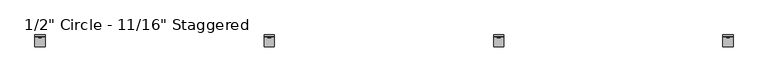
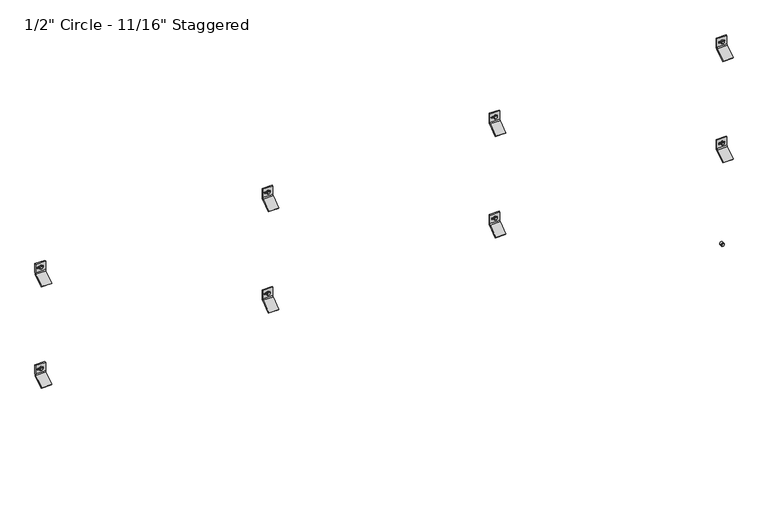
"""IFC4 building model written with IfcOpenShell, lengths in millimetres: plate geometry."""

from ifc_helpers import new_model, si_unit, point, frame, frame_2d, origin, place, context, project, spatial, polyline, circle_curve, trimmed, segment, composite_curve, outline, extrude, source, transform, mapped, element, save
from ifc_brep_helpers import plane_surface, cylinder_surface, revolved_surface, advanced_brep


def plate_5a68a687(model_context):
    return source(origin(), model_context, "Body", "SolidModel", [
        extrude(outline(polyline([(1395.4295323, 1293.5570034), (1391.0838197, 1296.0660017), (1391.0838197, 1301.0839983), (1395.4295323, 1303.5929966), (1399.7752448, 1301.0839983), (1399.7752448, 1296.0660017), (1395.4295323, 1293.5570034)])), frame((0.0, -58.7607779, 0.0), z_axis=(0.0, 1.0, 0.0), x_axis=(0.0, 0.0, 1.0)), (0.0, 0.0, 1.0), 11.1357779),
        extrude(outline(composite_curve([segment(trimmed(circle_curve(frame_2d((1395.5228392, 1298.575)), 6.35), [point((1395.5228392, 1304.925))], [point((1395.5228392, 1292.225))], False, "CARTESIAN"), True, "CONTINUOUS"), segment(trimmed(circle_curve(frame_2d((1395.5228392, 1298.575)), 6.35), [point((1395.5228392, 1292.225))], [point((1395.5228392, 1304.925))], False, "CARTESIAN"), True, "CONTINUOUS")], self_intersect=False)), frame((0.0, -57.0817743, 0.0), z_axis=(0.0, 1.0, 0.0), x_axis=(0.0, 0.0, 1.0)), (0.0, 0.0, 1.0), 9.4567743),
        advanced_brep(
        [(1279.525, -47.625, 1378.2802202), (1279.525, -51.2819443, 1370.6181877), (1279.525, -89.5163624, 1343.84616), (1279.525, -92.9330442, 1347.2628418), (1279.525, -54.3526876, 1374.2770983), (1279.525, -52.4002, 1378.2802911), (1279.525, -52.4002, 1412.4729053), (1279.525, -47.625, 1412.4729053), (1317.625, -47.625, 1378.2802202), (1317.625, -47.625, 1412.4729053), (1317.625, -52.4002, 1412.4729053), (1317.625, -52.4002, 1378.2802911), (1317.625, -54.3526876, 1374.2770983), (1317.625, -92.9330442, 1347.2628418), (1317.625, -89.5163624, 1343.84616), (1317.625, -51.2819443, 1370.6181877), (1305.3161889, -52.4002, 1398.4276891), (1305.3161889, -52.4002, 1392.0776891), (1289.0883287, -52.4002, 1392.0776891), (1289.0883287, -52.4002, 1398.4276891), (1305.3161889, -47.625, 1392.0776891), (1305.3161889, -47.625, 1398.4276891), (1289.0883287, -47.625, 1398.4276891), (1289.0883287, -47.625, 1392.0776891)],
        [
            (0, 1, circle_curve(frame((1279.525, -57.4802202, 1378.2802202), z_axis=(-1.0, 0.0, 0.0), x_axis=(0.0, -1.0, 0.0)), 9.8552202)),
            (1, 2),
            (2, 3),
            (3, 4),
            (4, 5, circle_curve(frame((1279.525, -57.4803246, 1378.2802911), z_axis=(1.0, 0.0, 0.0), x_axis=(0.0, -1.0, 0.0)), 5.0801246)),
            (5, 6),
            (6, 7),
            (7, 0),
            (8, 9),
            (9, 10),
            (10, 11),
            (11, 12, circle_curve(frame((1317.625, -57.4803246, 1378.2802911), z_axis=(-1.0, 0.0, 0.0), x_axis=(0.0, -1.0, 0.0)), 5.0801246)),
            (12, 13),
            (13, 14),
            (14, 15),
            (15, 8, circle_curve(frame((1317.625, -57.4802202, 1378.2802202), z_axis=(1.0, 0.0, 0.0), x_axis=(0.0, -1.0, 0.0)), 9.8552202)),
            (4, 12),
            (11, 5),
            (10, 6),
            (16, 17, circle_curve(frame((1305.3161889, -52.4002, 1395.2526891), z_axis=(0.0, 1.0, 0.0), x_axis=(0.0, 0.0, -1.0)), 3.175)),
            (17, 18),
            (18, 19, circle_curve(frame((1289.0883287, -52.4002, 1395.2526891), z_axis=(0.0, 1.0, 0.0), x_axis=(0.0, 0.0, -1.0)), 3.175)),
            (19, 16),
            (9, 7),
            (8, 0),
            (20, 21, circle_curve(frame((1305.3161889, -47.625, 1395.2526891), z_axis=(0.0, -1.0, 0.0), x_axis=(0.0, 0.0, -1.0)), 3.175)),
            (21, 22),
            (22, 23, circle_curve(frame((1289.0883287, -47.625, 1395.2526891), z_axis=(0.0, -1.0, 0.0), x_axis=(0.0, 0.0, -1.0)), 3.175)),
            (23, 20),
            (15, 1),
            (20, 17),
            (16, 21),
            (19, 22),
            (18, 23),
            (14, 2),
            (13, 3),
        ],
        [
            plane_surface(frame((1279.525, -67.3354404, 1378.2802202), z_axis=(-1.0, 0.0, 0.0), x_axis=(0.0, 0.0, 1.0))),
            plane_surface(frame((1317.625, -67.3354404, 1378.2802202), z_axis=(1.0, 0.0, 0.0), x_axis=(0.0, 0.0, -1.0))),
            revolved_surface(polyline([(1317.625, -62.5604492, 1378.2802911), (1279.525, -62.5604492, 1378.2802911)]), (1317.625, -57.4803246, 1378.2802911), (1.0, 0.0, 0.0)),
            plane_surface(frame((1279.525, -52.4002, 1378.2802911), z_axis=(0.0, -1.0, 0.0), x_axis=(1.0, 0.0, 0.0))),
            plane_surface(frame((1279.525, -52.4002, 1412.4729053), z_axis=(0.0, 0.0, 1.0), x_axis=(1.0, 0.0, 0.0))),
            plane_surface(frame((1279.525, -47.625, 1412.4729053), z_axis=(0.0, 1.0, 6.99569853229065e-12), x_axis=(1.0, 0.0, 0.0))),
            cylinder_surface(frame((1317.625, -57.4802202, 1378.2802202), z_axis=(-1.0, 0.0, 0.0), x_axis=(0.0, -1.0, 0.0)), 9.8552202),
            revolved_surface(polyline([(1305.3161889, -52.4002, 1392.0776891), (1305.3161889, -47.625, 1392.0776891)]), (1305.3161889, -25.6669948, 1395.2526891), (0.0, -1.0, 0.0)),
            plane_surface(frame((1305.3161889, -86.677982, 1398.4276891), z_axis=(0.0, 0.0, -1.0), x_axis=(0.0, 1.0, 0.0))),
            revolved_surface(polyline([(1289.0883287, -52.4002, 1392.0776891), (1289.0883287, -47.625, 1392.0776891)]), (1289.0883287, -25.6669948, 1395.2526891), (0.0, -1.0, 0.0)),
            plane_surface(frame((1289.0883287, -86.677982, 1392.0776891), z_axis=(-2.7237720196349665e-11, 0.0, 1.0), x_axis=(0.0, 1.0, 0.0))),
            plane_surface(frame((1279.525, -51.2819443, 1370.6181877), z_axis=(0.0, 0.5735764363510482, -0.8191520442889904), x_axis=(1.0, 0.0, 0.0))),
            plane_surface(frame((1279.525, -89.5163624, 1343.84616), z_axis=(0.0, -0.7071067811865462, -0.7071067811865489), x_axis=(1.0, 0.0, 0.0))),
            plane_surface(frame((1279.525, -92.9330442, 1347.2628418), z_axis=(0.0, -0.5735764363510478, 0.8191520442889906), x_axis=(1.0, 0.0, 0.0))),
        ],
        [
            (0, [[1, 2, 3, 4, 5, 6, 7, 8]]),
            (1, [[9, 10, 11, 12, 13, 14, 15, 16]]),
            (2, [[-5, 17, -12, 18]]),
            (3, [[-6, -18, -11, 19], [20, 21, 22, 23]]),
            (4, [[-7, -19, -10, 24]]),
            (5, [[-8, -24, -9, 25], [26, 27, 28, 29]]),
            (6, [[-1, -25, -16, 30]]),
            (7, [[31, -20, 32, -26]]),
            (8, [[-32, -23, 33, -27]]),
            (9, [[-33, -22, 34, -28]]),
            (10, [[-31, -29, -34, -21]]),
            (11, [[-2, -30, -15, 35]]),
            (12, [[-3, -35, -14, 36]]),
            (13, [[-4, -36, -13, -17]]),
        ],
    ),
        extrude(outline(polyline([(1395.4295323, 427.8403368), (1391.0838197, 430.349335), (1391.0838197, 435.3673316), (1395.4295323, 437.8763299), (1399.7752448, 435.3673316), (1399.7752448, 430.349335), (1395.4295323, 427.8403368)])), frame((0.0, -58.7607779, 0.0), z_axis=(0.0, 1.0, 0.0), x_axis=(0.0, 0.0, 1.0)), (0.0, 0.0, 1.0), 11.1357779),
        extrude(outline(composite_curve([segment(trimmed(circle_curve(frame_2d((1395.5228392, 432.8583333)), 6.35), [point((1395.5228392, 439.2083333))], [point((1395.5228392, 426.5083333))], False, "CARTESIAN"), True, "CONTINUOUS"), segment(trimmed(circle_curve(frame_2d((1395.5228392, 432.8583333)), 6.35), [point((1395.5228392, 426.5083333))], [point((1395.5228392, 439.2083333))], False, "CARTESIAN"), True, "CONTINUOUS")], self_intersect=False)), frame((0.0, -57.0817743, 0.0), z_axis=(0.0, 1.0, 0.0), x_axis=(0.0, 0.0, 1.0)), (0.0, 0.0, 1.0), 9.4567743),
        advanced_brep(
        [(413.8083333, -47.625, 1378.2802202), (413.8083333, -51.2819443, 1370.6181877), (413.8083333, -89.5163624, 1343.84616), (413.8083333, -92.9330442, 1347.2628418), (413.8083333, -54.3526876, 1374.2770983), (413.8083333, -52.4002, 1378.2802911), (413.8083333, -52.4002, 1412.4729053), (413.8083333, -47.625, 1412.4729053), (451.9083333, -47.625, 1378.2802202), (451.9083333, -47.625, 1412.4729053), (451.9083333, -52.4002, 1412.4729053), (451.9083333, -52.4002, 1378.2802911), (451.9083333, -54.3526876, 1374.2770983), (451.9083333, -92.9330442, 1347.2628418), (451.9083333, -89.5163624, 1343.84616), (451.9083333, -51.2819443, 1370.6181877), (439.5995222, -52.4002, 1398.4276891), (439.5995222, -52.4002, 1392.0776891), (423.371662, -52.4002, 1392.0776891), (423.371662, -52.4002, 1398.4276891), (439.5995222, -47.625, 1392.0776891), (439.5995222, -47.625, 1398.4276891), (423.371662, -47.625, 1398.4276891), (423.371662, -47.625, 1392.0776891)],
        [
            (0, 1, circle_curve(frame((413.8083333, -57.4802202, 1378.2802202), z_axis=(-1.0, 0.0, 0.0), x_axis=(0.0, -1.0, 0.0)), 9.8552202)),
            (1, 2),
            (2, 3),
            (3, 4),
            (4, 5, circle_curve(frame((413.8083333, -57.4803246, 1378.2802911), z_axis=(1.0, 0.0, 0.0), x_axis=(0.0, -1.0, 0.0)), 5.0801246)),
            (5, 6),
            (6, 7),
            (7, 0),
            (8, 9),
            (9, 10),
            (10, 11),
            (11, 12, circle_curve(frame((451.9083333, -57.4803246, 1378.2802911), z_axis=(-1.0, 0.0, 0.0), x_axis=(0.0, -1.0, 0.0)), 5.0801246)),
            (12, 13),
            (13, 14),
            (14, 15),
            (15, 8, circle_curve(frame((451.9083333, -57.4802202, 1378.2802202), z_axis=(1.0, 0.0, 0.0), x_axis=(0.0, -1.0, 0.0)), 9.8552202)),
            (4, 12),
            (11, 5),
            (10, 6),
            (16, 17, circle_curve(frame((439.5995222, -52.4002, 1395.2526891), z_axis=(0.0, 1.0, 0.0), x_axis=(0.0, 0.0, -1.0)), 3.175)),
            (17, 18),
            (18, 19, circle_curve(frame((423.371662, -52.4002, 1395.2526891), z_axis=(0.0, 1.0, 0.0), x_axis=(0.0, 0.0, -1.0)), 3.175)),
            (19, 16),
            (9, 7),
            (8, 0),
            (20, 21, circle_curve(frame((439.5995222, -47.625, 1395.2526891), z_axis=(0.0, -1.0, 0.0), x_axis=(0.0, 0.0, -1.0)), 3.175)),
            (21, 22),
            (22, 23, circle_curve(frame((423.371662, -47.625, 1395.2526891), z_axis=(0.0, -1.0, 0.0), x_axis=(0.0, 0.0, -1.0)), 3.175)),
            (23, 20),
            (15, 1),
            (20, 17),
            (16, 21),
            (19, 22),
            (18, 23),
            (14, 2),
            (13, 3),
        ],
        [
            plane_surface(frame((413.8083333, -67.3354404, 1378.2802202), z_axis=(-1.0, 0.0, 0.0), x_axis=(0.0, 0.0, 1.0))),
            plane_surface(frame((451.9083333, -67.3354404, 1378.2802202), z_axis=(1.0, 0.0, 0.0), x_axis=(0.0, 0.0, -1.0))),
            revolved_surface(polyline([(451.9083333, -62.5604492, 1378.2802911), (413.8083333, -62.5604492, 1378.2802911)]), (451.9083333, -57.4803246, 1378.2802911), (1.0, 0.0, 0.0)),
            plane_surface(frame((413.8083333, -52.4002, 1378.2802911), z_axis=(0.0, -1.0, 0.0), x_axis=(1.0, 0.0, 0.0))),
            plane_surface(frame((413.8083333, -52.4002, 1412.4729053), z_axis=(0.0, 0.0, 1.0), x_axis=(1.0, 0.0, 0.0))),
            plane_surface(frame((413.8083333, -47.625, 1412.4729053), z_axis=(0.0, 1.0, 6.99569853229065e-12), x_axis=(1.0, 0.0, 0.0))),
            cylinder_surface(frame((451.9083333, -57.4802202, 1378.2802202), z_axis=(-1.0, 0.0, 0.0), x_axis=(0.0, -1.0, 0.0)), 9.8552202),
            revolved_surface(polyline([(439.5995222, -52.4002, 1392.0776891), (439.5995222, -47.625, 1392.0776891)]), (439.5995222, -25.6669948, 1395.2526891), (0.0, -1.0, 0.0)),
            plane_surface(frame((439.5995222, -86.677982, 1398.4276891), z_axis=(0.0, 0.0, -1.0), x_axis=(0.0, 1.0, 0.0))),
            revolved_surface(polyline([(423.371662, -52.4002, 1392.0776891), (423.371662, -47.625, 1392.0776891)]), (423.371662, -25.6669948, 1395.2526891), (0.0, -1.0, 0.0)),
            plane_surface(frame((423.371662, -86.677982, 1392.0776891), z_axis=(-2.7237720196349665e-11, 0.0, 1.0), x_axis=(0.0, 1.0, 0.0))),
            plane_surface(frame((413.8083333, -51.2819443, 1370.6181877), z_axis=(0.0, 0.5735764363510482, -0.8191520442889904), x_axis=(1.0, 0.0, 0.0))),
            plane_surface(frame((413.8083333, -89.5163624, 1343.84616), z_axis=(0.0, -0.7071067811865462, -0.7071067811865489), x_axis=(1.0, 0.0, 0.0))),
            plane_surface(frame((413.8083333, -92.9330442, 1347.2628418), z_axis=(0.0, -0.5735764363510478, 0.8191520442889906), x_axis=(1.0, 0.0, 0.0))),
        ],
        [
            (0, [[1, 2, 3, 4, 5, 6, 7, 8]]),
            (1, [[9, 10, 11, 12, 13, 14, 15, 16]]),
            (2, [[-5, 17, -12, 18]]),
            (3, [[-6, -18, -11, 19], [20, 21, 22, 23]]),
            (4, [[-7, -19, -10, 24]]),
            (5, [[-8, -24, -9, 25], [26, 27, 28, 29]]),
            (6, [[-1, -25, -16, 30]]),
            (7, [[31, -20, 32, -26]]),
            (8, [[-32, -23, 33, -27]]),
            (9, [[-33, -22, 34, -28]]),
            (10, [[-31, -29, -34, -21]]),
            (11, [[-2, -30, -15, 35]]),
            (12, [[-3, -35, -14, 36]]),
            (13, [[-4, -36, -13, -17]]),
        ],
    ),
        extrude(outline(polyline([(1395.4295323, -437.8763299), (1391.0838197, -435.3673316), (1391.0838197, -430.349335), (1395.4295323, -427.8403368), (1399.7752448, -430.349335), (1399.7752448, -435.3673316), (1395.4295323, -437.8763299)])), frame((0.0, -58.7607779, 0.0), z_axis=(0.0, 1.0, 0.0), x_axis=(0.0, 0.0, 1.0)), (0.0, 0.0, 1.0), 11.1357779),
        extrude(outline(composite_curve([segment(trimmed(circle_curve(frame_2d((1395.5228392, -432.8583333)), 6.35), [point((1395.5228392, -426.5083333))], [point((1395.5228392, -439.2083333))], False, "CARTESIAN"), True, "CONTINUOUS"), segment(trimmed(circle_curve(frame_2d((1395.5228392, -432.8583333)), 6.35), [point((1395.5228392, -439.2083333))], [point((1395.5228392, -426.5083333))], False, "CARTESIAN"), True, "CONTINUOUS")], self_intersect=False)), frame((0.0, -57.0817743, 0.0), z_axis=(0.0, 1.0, 0.0), x_axis=(0.0, 0.0, 1.0)), (0.0, 0.0, 1.0), 9.4567743),
        advanced_brep(
        [(-451.9083333, -47.625, 1378.2802202), (-451.9083333, -51.2819443, 1370.6181877), (-451.9083333, -89.5163624, 1343.84616), (-451.9083333, -92.9330442, 1347.2628418), (-451.9083333, -54.3526876, 1374.2770983), (-451.9083333, -52.4002, 1378.2802911), (-451.9083333, -52.4002, 1412.4729053), (-451.9083333, -47.625, 1412.4729053), (-413.8083333, -47.625, 1378.2802202), (-413.8083333, -47.625, 1412.4729053), (-413.8083333, -52.4002, 1412.4729053), (-413.8083333, -52.4002, 1378.2802911), (-413.8083333, -54.3526876, 1374.2770983), (-413.8083333, -92.9330442, 1347.2628418), (-413.8083333, -89.5163624, 1343.84616), (-413.8083333, -51.2819443, 1370.6181877), (-426.1171444, -52.4002, 1398.4276891), (-426.1171444, -52.4002, 1392.0776891), (-442.3450046, -52.4002, 1392.0776891), (-442.3450046, -52.4002, 1398.4276891), (-426.1171444, -47.625, 1392.0776891), (-426.1171444, -47.625, 1398.4276891), (-442.3450046, -47.625, 1398.4276891), (-442.3450046, -47.625, 1392.0776891)],
        [
            (0, 1, circle_curve(frame((-451.9083333, -57.4802202, 1378.2802202), z_axis=(-1.0, 0.0, 0.0), x_axis=(0.0, -1.0, 0.0)), 9.8552202)),
            (1, 2),
            (2, 3),
            (3, 4),
            (4, 5, circle_curve(frame((-451.9083333, -57.4803246, 1378.2802911), z_axis=(1.0, 0.0, 0.0), x_axis=(0.0, -1.0, 0.0)), 5.0801246)),
            (5, 6),
            (6, 7),
            (7, 0),
            (8, 9),
            (9, 10),
            (10, 11),
            (11, 12, circle_curve(frame((-413.8083333, -57.4803246, 1378.2802911), z_axis=(-1.0, 0.0, 0.0), x_axis=(0.0, -1.0, 0.0)), 5.0801246)),
            (12, 13),
            (13, 14),
            (14, 15),
            (15, 8, circle_curve(frame((-413.8083333, -57.4802202, 1378.2802202), z_axis=(1.0, 0.0, 0.0), x_axis=(0.0, -1.0, 0.0)), 9.8552202)),
            (4, 12),
            (11, 5),
            (10, 6),
            (16, 17, circle_curve(frame((-426.1171444, -52.4002, 1395.2526891), z_axis=(0.0, 1.0, 0.0), x_axis=(0.0, 0.0, -1.0)), 3.175)),
            (17, 18),
            (18, 19, circle_curve(frame((-442.3450046, -52.4002, 1395.2526891), z_axis=(0.0, 1.0, 0.0), x_axis=(0.0, 0.0, -1.0)), 3.175)),
            (19, 16),
            (9, 7),
            (8, 0),
            (20, 21, circle_curve(frame((-426.1171444, -47.625, 1395.2526891), z_axis=(0.0, -1.0, 0.0), x_axis=(0.0, 0.0, -1.0)), 3.175)),
            (21, 22),
            (22, 23, circle_curve(frame((-442.3450046, -47.625, 1395.2526891), z_axis=(0.0, -1.0, 0.0), x_axis=(0.0, 0.0, -1.0)), 3.175)),
            (23, 20),
            (15, 1),
            (20, 17),
            (16, 21),
            (19, 22),
            (18, 23),
            (14, 2),
            (13, 3),
        ],
        [
            plane_surface(frame((-451.9083333, -67.3354404, 1378.2802202), z_axis=(-1.0, 0.0, 0.0), x_axis=(0.0, 0.0, 1.0))),
            plane_surface(frame((-413.8083333, -67.3354404, 1378.2802202), z_axis=(1.0, 0.0, 0.0), x_axis=(0.0, 0.0, -1.0))),
            revolved_surface(polyline([(-413.8083333, -62.5604492, 1378.2802911), (-451.9083333, -62.5604492, 1378.2802911)]), (-413.8083333, -57.4803246, 1378.2802911), (1.0, 0.0, 0.0)),
            plane_surface(frame((-451.9083333, -52.4002, 1378.2802911), z_axis=(0.0, -1.0, 0.0), x_axis=(1.0, 0.0, 0.0))),
            plane_surface(frame((-451.9083333, -52.4002, 1412.4729053), z_axis=(0.0, 0.0, 1.0), x_axis=(1.0, 0.0, 0.0))),
            plane_surface(frame((-451.9083333, -47.625, 1412.4729053), z_axis=(0.0, 1.0, 6.99569853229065e-12), x_axis=(1.0, 0.0, 0.0))),
            cylinder_surface(frame((-413.8083333, -57.4802202, 1378.2802202), z_axis=(-1.0, 0.0, 0.0), x_axis=(0.0, -1.0, 0.0)), 9.8552202),
            revolved_surface(polyline([(-426.1171444, -52.4002, 1392.0776891), (-426.1171444, -47.625, 1392.0776891)]), (-426.1171444, -25.6669948, 1395.2526891), (0.0, -1.0, 0.0)),
            plane_surface(frame((-426.1171444, -86.677982, 1398.4276891), z_axis=(0.0, 0.0, -1.0), x_axis=(0.0, 1.0, 0.0))),
            revolved_surface(polyline([(-442.3450046, -52.4002, 1392.0776891), (-442.3450046, -47.625, 1392.0776891)]), (-442.3450046, -25.6669948, 1395.2526891), (0.0, -1.0, 0.0)),
            plane_surface(frame((-442.3450046, -86.677982, 1392.0776891), z_axis=(-2.7237720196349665e-11, 0.0, 1.0), x_axis=(0.0, 1.0, 0.0))),
            plane_surface(frame((-451.9083333, -51.2819443, 1370.6181877), z_axis=(0.0, 0.5735764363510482, -0.8191520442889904), x_axis=(1.0, 0.0, 0.0))),
            plane_surface(frame((-451.9083333, -89.5163624, 1343.84616), z_axis=(0.0, -0.7071067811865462, -0.7071067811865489), x_axis=(1.0, 0.0, 0.0))),
            plane_surface(frame((-451.9083333, -92.9330442, 1347.2628418), z_axis=(0.0, -0.5735764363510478, 0.8191520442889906), x_axis=(1.0, 0.0, 0.0))),
        ],
        [
            (0, [[1, 2, 3, 4, 5, 6, 7, 8]]),
            (1, [[9, 10, 11, 12, 13, 14, 15, 16]]),
            (2, [[-5, 17, -12, 18]]),
            (3, [[-6, -18, -11, 19], [20, 21, 22, 23]]),
            (4, [[-7, -19, -10, 24]]),
            (5, [[-8, -24, -9, 25], [26, 27, 28, 29]]),
            (6, [[-1, -25, -16, 30]]),
            (7, [[31, -20, 32, -26]]),
            (8, [[-32, -23, 33, -27]]),
            (9, [[-33, -22, 34, -28]]),
            (10, [[-31, -29, -34, -21]]),
            (11, [[-2, -30, -15, 35]]),
            (12, [[-3, -35, -14, 36]]),
            (13, [[-4, -36, -13, -17]]),
        ],
    ),
        extrude(outline(polyline([(1395.4295323, -1303.5929966), (1391.0838197, -1301.0839983), (1391.0838197, -1296.0660017), (1395.4295323, -1293.5570034), (1399.7752448, -1296.0660017), (1399.7752448, -1301.0839983), (1395.4295323, -1303.5929966)])), frame((0.0, -58.7607779, 0.0), z_axis=(0.0, 1.0, 0.0), x_axis=(0.0, 0.0, 1.0)), (0.0, 0.0, 1.0), 11.1357779),
        extrude(outline(composite_curve([segment(trimmed(circle_curve(frame_2d((1395.5228392, -1298.575)), 6.35), [point((1395.5228392, -1292.225))], [point((1395.5228392, -1304.925))], False, "CARTESIAN"), True, "CONTINUOUS"), segment(trimmed(circle_curve(frame_2d((1395.5228392, -1298.575)), 6.35), [point((1395.5228392, -1304.925))], [point((1395.5228392, -1292.225))], False, "CARTESIAN"), True, "CONTINUOUS")], self_intersect=False)), frame((0.0, -57.0817743, 0.0), z_axis=(0.0, 1.0, 0.0), x_axis=(0.0, 0.0, 1.0)), (0.0, 0.0, 1.0), 9.4567743),
        advanced_brep(
        [(-1317.625, -47.625, 1378.2802202), (-1317.625, -51.2819443, 1370.6181877), (-1317.625, -89.5163624, 1343.84616), (-1317.625, -92.9330442, 1347.2628418), (-1317.625, -54.3526876, 1374.2770983), (-1317.625, -52.4002, 1378.2802911), (-1317.625, -52.4002, 1412.4729053), (-1317.625, -47.625, 1412.4729053), (-1279.525, -47.625, 1378.2802202), (-1279.525, -47.625, 1412.4729053), (-1279.525, -52.4002, 1412.4729053), (-1279.525, -52.4002, 1378.2802911), (-1279.525, -54.3526876, 1374.2770983), (-1279.525, -92.9330442, 1347.2628418), (-1279.525, -89.5163624, 1343.84616), (-1279.525, -51.2819443, 1370.6181877), (-1291.8338111, -52.4002, 1398.4276891), (-1291.8338111, -52.4002, 1392.0776891), (-1308.0616713, -52.4002, 1392.0776891), (-1308.0616713, -52.4002, 1398.4276891), (-1291.8338111, -47.625, 1392.0776891), (-1291.8338111, -47.625, 1398.4276891), (-1308.0616713, -47.625, 1398.4276891), (-1308.0616713, -47.625, 1392.0776891)],
        [
            (0, 1, circle_curve(frame((-1317.625, -57.4802202, 1378.2802202), z_axis=(-1.0, 0.0, 0.0), x_axis=(0.0, -1.0, 0.0)), 9.8552202)),
            (1, 2),
            (2, 3),
            (3, 4),
            (4, 5, circle_curve(frame((-1317.625, -57.4803246, 1378.2802911), z_axis=(1.0, 0.0, 0.0), x_axis=(0.0, -1.0, 0.0)), 5.0801246)),
            (5, 6),
            (6, 7),
            (7, 0),
            (8, 9),
            (9, 10),
            (10, 11),
            (11, 12, circle_curve(frame((-1279.525, -57.4803246, 1378.2802911), z_axis=(-1.0, 0.0, 0.0), x_axis=(0.0, -1.0, 0.0)), 5.0801246)),
            (12, 13),
            (13, 14),
            (14, 15),
            (15, 8, circle_curve(frame((-1279.525, -57.4802202, 1378.2802202), z_axis=(1.0, 0.0, 0.0), x_axis=(0.0, -1.0, 0.0)), 9.8552202)),
            (4, 12),
            (11, 5),
            (10, 6),
            (16, 17, circle_curve(frame((-1291.8338111, -52.4002, 1395.2526891), z_axis=(0.0, 1.0, 0.0), x_axis=(0.0, 0.0, -1.0)), 3.175)),
            (17, 18),
            (18, 19, circle_curve(frame((-1308.0616713, -52.4002, 1395.2526891), z_axis=(0.0, 1.0, 0.0), x_axis=(0.0, 0.0, -1.0)), 3.175)),
            (19, 16),
            (9, 7),
            (8, 0),
            (20, 21, circle_curve(frame((-1291.8338111, -47.625, 1395.2526891), z_axis=(0.0, -1.0, 0.0), x_axis=(0.0, 0.0, -1.0)), 3.175)),
            (21, 22),
            (22, 23, circle_curve(frame((-1308.0616713, -47.625, 1395.2526891), z_axis=(0.0, -1.0, 0.0), x_axis=(0.0, 0.0, -1.0)), 3.175)),
            (23, 20),
            (15, 1),
            (20, 17),
            (16, 21),
            (19, 22),
            (18, 23),
            (14, 2),
            (13, 3),
        ],
        [
            plane_surface(frame((-1317.625, -67.3354404, 1378.2802202), z_axis=(-1.0, 0.0, 0.0), x_axis=(0.0, 0.0, 1.0))),
            plane_surface(frame((-1279.525, -67.3354404, 1378.2802202), z_axis=(1.0, 0.0, 0.0), x_axis=(0.0, 0.0, -1.0))),
            revolved_surface(polyline([(-1279.525, -62.5604492, 1378.2802911), (-1317.625, -62.5604492, 1378.2802911)]), (-1279.525, -57.4803246, 1378.2802911), (1.0, 0.0, 0.0)),
            plane_surface(frame((-1317.625, -52.4002, 1378.2802911), z_axis=(0.0, -1.0, 0.0), x_axis=(1.0, 0.0, 0.0))),
            plane_surface(frame((-1317.625, -52.4002, 1412.4729053), z_axis=(0.0, 0.0, 1.0), x_axis=(1.0, 0.0, 0.0))),
            plane_surface(frame((-1317.625, -47.625, 1412.4729053), z_axis=(0.0, 1.0, 6.99569853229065e-12), x_axis=(1.0, 0.0, 0.0))),
            cylinder_surface(frame((-1279.525, -57.4802202, 1378.2802202), z_axis=(-1.0, 0.0, 0.0), x_axis=(0.0, -1.0, 0.0)), 9.8552202),
            revolved_surface(polyline([(-1291.8338111, -52.4002, 1392.0776891), (-1291.8338111, -47.625, 1392.0776891)]), (-1291.8338111, -25.6669948, 1395.2526891), (0.0, -1.0, 0.0)),
            plane_surface(frame((-1291.8338111, -86.677982, 1398.4276891), z_axis=(0.0, 0.0, -1.0), x_axis=(0.0, 1.0, 0.0))),
            revolved_surface(polyline([(-1308.0616713, -52.4002, 1392.0776891), (-1308.0616713, -47.625, 1392.0776891)]), (-1308.0616713, -25.6669948, 1395.2526891), (0.0, -1.0, 0.0)),
            plane_surface(frame((-1308.0616713, -86.677982, 1392.0776891), z_axis=(-2.7237720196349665e-11, 0.0, 1.0), x_axis=(0.0, 1.0, 0.0))),
            plane_surface(frame((-1317.625, -51.2819443, 1370.6181877), z_axis=(0.0, 0.5735764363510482, -0.8191520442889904), x_axis=(1.0, 0.0, 0.0))),
            plane_surface(frame((-1317.625, -89.5163624, 1343.84616), z_axis=(0.0, -0.7071067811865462, -0.7071067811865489), x_axis=(1.0, 0.0, 0.0))),
            plane_surface(frame((-1317.625, -92.9330442, 1347.2628418), z_axis=(0.0, -0.5735764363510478, 0.8191520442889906), x_axis=(1.0, 0.0, 0.0))),
        ],
        [
            (0, [[1, 2, 3, 4, 5, 6, 7, 8]]),
            (1, [[9, 10, 11, 12, 13, 14, 15, 16]]),
            (2, [[-5, 17, -12, 18]]),
            (3, [[-6, -18, -11, 19], [20, 21, 22, 23]]),
            (4, [[-7, -19, -10, 24]]),
            (5, [[-8, -24, -9, 25], [26, 27, 28, 29]]),
            (6, [[-1, -25, -16, 30]]),
            (7, [[31, -20, 32, -26]]),
            (8, [[-32, -23, 33, -27]]),
            (9, [[-33, -22, 34, -28]]),
            (10, [[-31, -29, -34, -21]]),
            (11, [[-2, -30, -15, 35]]),
            (12, [[-3, -35, -14, 36]]),
            (13, [[-4, -36, -13, -17]]),
        ],
    ),
        extrude(outline(polyline([(986.9128656, 1293.5570034), (982.5671531, 1296.0660017), (982.5671531, 1301.0839983), (986.9128656, 1303.5929966), (991.2585781, 1301.0839983), (991.2585781, 1296.0660017), (986.9128656, 1293.5570034)])), frame((0.0, -58.7607779, 0.0), z_axis=(0.0, 1.0, 0.0), x_axis=(0.0, 0.0, 1.0)), (0.0, 0.0, 1.0), 11.1357779),
        extrude(outline(composite_curve([segment(trimmed(circle_curve(frame_2d((987.0061726, 1298.575)), 6.35), [point((987.0061726, 1304.925))], [point((987.0061726, 1292.225))], False, "CARTESIAN"), True, "CONTINUOUS"), segment(trimmed(circle_curve(frame_2d((987.0061726, 1298.575)), 6.35), [point((987.0061726, 1292.225))], [point((987.0061726, 1304.925))], False, "CARTESIAN"), True, "CONTINUOUS")], self_intersect=False)), frame((0.0, -57.0817743, 0.0), z_axis=(0.0, 1.0, 0.0), x_axis=(0.0, 0.0, 1.0)), (0.0, 0.0, 1.0), 9.4567743),
        advanced_brep(
        [(1279.525, -47.625, 969.7635535), (1279.525, -51.2819443, 962.1015211), (1279.525, -89.5163624, 935.3294933), (1279.525, -92.9330442, 938.7461751), (1279.525, -54.3526876, 965.7604316), (1279.525, -52.4002, 969.7636244), (1279.525, -52.4002, 1003.9562386), (1279.525, -47.625, 1003.9562386), (1317.625, -47.625, 969.7635535), (1317.625, -47.625, 1003.9562386), (1317.625, -52.4002, 1003.9562386), (1317.625, -52.4002, 969.7636244), (1317.625, -54.3526876, 965.7604316), (1317.625, -92.9330442, 938.7461751), (1317.625, -89.5163624, 935.3294933), (1317.625, -51.2819443, 962.1015211), (1305.3161889, -52.4002, 989.9110224), (1305.3161889, -52.4002, 983.5610224), (1289.0883287, -52.4002, 983.5610224), (1289.0883287, -52.4002, 989.9110224), (1305.3161889, -47.625, 983.5610224), (1305.3161889, -47.625, 989.9110224), (1289.0883287, -47.625, 989.9110224), (1289.0883287, -47.625, 983.5610224)],
        [
            (0, 1, circle_curve(frame((1279.525, -57.4802202, 969.7635535), z_axis=(-1.0, 0.0, 0.0), x_axis=(0.0, -1.0, 0.0)), 9.8552202)),
            (1, 2),
            (2, 3),
            (3, 4),
            (4, 5, circle_curve(frame((1279.525, -57.4803246, 969.7636244), z_axis=(1.0, 0.0, 0.0), x_axis=(0.0, -1.0, 0.0)), 5.0801246)),
            (5, 6),
            (6, 7),
            (7, 0),
            (8, 9),
            (9, 10),
            (10, 11),
            (11, 12, circle_curve(frame((1317.625, -57.4803246, 969.7636244), z_axis=(-1.0, 0.0, 0.0), x_axis=(0.0, -1.0, 0.0)), 5.0801246)),
            (12, 13),
            (13, 14),
            (14, 15),
            (15, 8, circle_curve(frame((1317.625, -57.4802202, 969.7635535), z_axis=(1.0, 0.0, 0.0), x_axis=(0.0, -1.0, 0.0)), 9.8552202)),
            (4, 12),
            (11, 5),
            (10, 6),
            (16, 17, circle_curve(frame((1305.3161889, -52.4002, 986.7360224), z_axis=(0.0, 1.0, 0.0), x_axis=(0.0, 0.0, -1.0)), 3.175)),
            (17, 18),
            (18, 19, circle_curve(frame((1289.0883287, -52.4002, 986.7360224), z_axis=(0.0, 1.0, 0.0), x_axis=(0.0, 0.0, -1.0)), 3.175)),
            (19, 16),
            (9, 7),
            (8, 0),
            (20, 21, circle_curve(frame((1305.3161889, -47.625, 986.7360224), z_axis=(0.0, -1.0, 0.0), x_axis=(0.0, 0.0, -1.0)), 3.175)),
            (21, 22),
            (22, 23, circle_curve(frame((1289.0883287, -47.625, 986.7360224), z_axis=(0.0, -1.0, 0.0), x_axis=(0.0, 0.0, -1.0)), 3.175)),
            (23, 20),
            (15, 1),
            (20, 17),
            (16, 21),
            (19, 22),
            (18, 23),
            (14, 2),
            (13, 3),
        ],
        [
            plane_surface(frame((1279.525, -67.3354404, 969.7635535), z_axis=(-1.0, 0.0, 0.0), x_axis=(0.0, 0.0, 1.0))),
            plane_surface(frame((1317.625, -67.3354404, 969.7635535), z_axis=(1.0, 0.0, 0.0), x_axis=(0.0, 0.0, -1.0))),
            revolved_surface(polyline([(1317.625, -62.5604492, 969.7636244), (1279.525, -62.5604492, 969.7636244)]), (1317.625, -57.4803246, 969.7636244), (1.0, 0.0, 0.0)),
            plane_surface(frame((1279.525, -52.4002, 969.7636244), z_axis=(0.0, -1.0, 0.0), x_axis=(1.0, 0.0, 0.0))),
            plane_surface(frame((1279.525, -52.4002, 1003.9562386), z_axis=(0.0, 0.0, 1.0), x_axis=(1.0, 0.0, 0.0))),
            plane_surface(frame((1279.525, -47.625, 1003.9562386), z_axis=(0.0, 1.0, 6.99569853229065e-12), x_axis=(1.0, 0.0, 0.0))),
            cylinder_surface(frame((1317.625, -57.4802202, 969.7635535), z_axis=(-1.0, 0.0, 0.0), x_axis=(0.0, -1.0, 0.0)), 9.8552202),
            revolved_surface(polyline([(1305.3161889, -52.4002, 983.5610224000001), (1305.3161889, -47.625, 983.5610224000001)]), (1305.3161889, -25.6669948, 986.7360224), (0.0, -1.0, 0.0)),
            plane_surface(frame((1305.3161889, -86.677982, 989.9110224), z_axis=(0.0, 0.0, -1.0), x_axis=(0.0, 1.0, 0.0))),
            revolved_surface(polyline([(1289.0883287, -52.4002, 983.5610224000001), (1289.0883287, -47.625, 983.5610224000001)]), (1289.0883287, -25.6669948, 986.7360224), (0.0, -1.0, 0.0)),
            plane_surface(frame((1289.0883287, -86.677982, 983.5610224), z_axis=(-2.7237766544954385e-11, 0.0, 1.0), x_axis=(0.0, 1.0, 0.0))),
            plane_surface(frame((1279.525, -51.2819443, 962.1015211), z_axis=(0.0, 0.5735764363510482, -0.8191520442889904), x_axis=(1.0, 0.0, 0.0))),
            plane_surface(frame((1279.525, -89.5163624, 935.3294933), z_axis=(0.0, -0.7071067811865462, -0.7071067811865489), x_axis=(1.0, 0.0, 0.0))),
            plane_surface(frame((1279.525, -92.9330442, 938.7461751), z_axis=(0.0, -0.5735764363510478, 0.8191520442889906), x_axis=(1.0, 0.0, 0.0))),
        ],
        [
            (0, [[1, 2, 3, 4, 5, 6, 7, 8]]),
            (1, [[9, 10, 11, 12, 13, 14, 15, 16]]),
            (2, [[-5, 17, -12, 18]]),
            (3, [[-6, -18, -11, 19], [20, 21, 22, 23]]),
            (4, [[-7, -19, -10, 24]]),
            (5, [[-8, -24, -9, 25], [26, 27, 28, 29]]),
            (6, [[-1, -25, -16, 30]]),
            (7, [[31, -20, 32, -26]]),
            (8, [[-32, -23, 33, -27]]),
            (9, [[-33, -22, 34, -28]]),
            (10, [[-31, -29, -34, -21]]),
            (11, [[-2, -30, -15, 35]]),
            (12, [[-3, -35, -14, 36]]),
            (13, [[-4, -36, -13, -17]]),
        ],
    ),
        extrude(outline(polyline([(986.9128656, 427.8403368), (982.5671531, 430.349335), (982.5671531, 435.3673316), (986.9128656, 437.8763299), (991.2585781, 435.3673316), (991.2585781, 430.349335), (986.9128656, 427.8403368)])), frame((0.0, -58.7607779, 0.0), z_axis=(0.0, 1.0, 0.0), x_axis=(0.0, 0.0, 1.0)), (0.0, 0.0, 1.0), 11.1357779),
        extrude(outline(composite_curve([segment(trimmed(circle_curve(frame_2d((987.0061726, 432.8583333)), 6.35), [point((987.0061726, 439.2083333))], [point((987.0061726, 426.5083333))], False, "CARTESIAN"), True, "CONTINUOUS"), segment(trimmed(circle_curve(frame_2d((987.0061726, 432.8583333)), 6.35), [point((987.0061726, 426.5083333))], [point((987.0061726, 439.2083333))], False, "CARTESIAN"), True, "CONTINUOUS")], self_intersect=False)), frame((0.0, -57.0817743, 0.0), z_axis=(0.0, 1.0, 0.0), x_axis=(0.0, 0.0, 1.0)), (0.0, 0.0, 1.0), 9.4567743),
        advanced_brep(
        [(413.8083333, -47.625, 969.7635535), (413.8083333, -51.2819443, 962.1015211), (413.8083333, -89.5163624, 935.3294933), (413.8083333, -92.9330442, 938.7461751), (413.8083333, -54.3526876, 965.7604316), (413.8083333, -52.4002, 969.7636244), (413.8083333, -52.4002, 1003.9562386), (413.8083333, -47.625, 1003.9562386), (451.9083333, -47.625, 969.7635535), (451.9083333, -47.625, 1003.9562386), (451.9083333, -52.4002, 1003.9562386), (451.9083333, -52.4002, 969.7636244), (451.9083333, -54.3526876, 965.7604316), (451.9083333, -92.9330442, 938.7461751), (451.9083333, -89.5163624, 935.3294933), (451.9083333, -51.2819443, 962.1015211), (439.5995222, -52.4002, 989.9110224), (439.5995222, -52.4002, 983.5610224), (423.371662, -52.4002, 983.5610224), (423.371662, -52.4002, 989.9110224), (439.5995222, -47.625, 983.5610224), (439.5995222, -47.625, 989.9110224), (423.371662, -47.625, 989.9110224), (423.371662, -47.625, 983.5610224)],
        [
            (0, 1, circle_curve(frame((413.8083333, -57.4802202, 969.7635535), z_axis=(-1.0, 0.0, 0.0), x_axis=(0.0, -1.0, 0.0)), 9.8552202)),
            (1, 2),
            (2, 3),
            (3, 4),
            (4, 5, circle_curve(frame((413.8083333, -57.4803246, 969.7636244), z_axis=(1.0, 0.0, 0.0), x_axis=(0.0, -1.0, 0.0)), 5.0801246)),
            (5, 6),
            (6, 7),
            (7, 0),
            (8, 9),
            (9, 10),
            (10, 11),
            (11, 12, circle_curve(frame((451.9083333, -57.4803246, 969.7636244), z_axis=(-1.0, 0.0, 0.0), x_axis=(0.0, -1.0, 0.0)), 5.0801246)),
            (12, 13),
            (13, 14),
            (14, 15),
            (15, 8, circle_curve(frame((451.9083333, -57.4802202, 969.7635535), z_axis=(1.0, 0.0, 0.0), x_axis=(0.0, -1.0, 0.0)), 9.8552202)),
            (4, 12),
            (11, 5),
            (10, 6),
            (16, 17, circle_curve(frame((439.5995222, -52.4002, 986.7360224), z_axis=(0.0, 1.0, 0.0), x_axis=(0.0, 0.0, -1.0)), 3.175)),
            (17, 18),
            (18, 19, circle_curve(frame((423.371662, -52.4002, 986.7360224), z_axis=(0.0, 1.0, 0.0), x_axis=(0.0, 0.0, -1.0)), 3.175)),
            (19, 16),
            (9, 7),
            (8, 0),
            (20, 21, circle_curve(frame((439.5995222, -47.625, 986.7360224), z_axis=(0.0, -1.0, 0.0), x_axis=(0.0, 0.0, -1.0)), 3.175)),
            (21, 22),
            (22, 23, circle_curve(frame((423.371662, -47.625, 986.7360224), z_axis=(0.0, -1.0, 0.0), x_axis=(0.0, 0.0, -1.0)), 3.175)),
            (23, 20),
            (15, 1),
            (20, 17),
            (16, 21),
            (19, 22),
            (18, 23),
            (14, 2),
            (13, 3),
        ],
        [
            plane_surface(frame((413.8083333, -67.3354404, 969.7635535), z_axis=(-1.0, 0.0, 0.0), x_axis=(0.0, 0.0, 1.0))),
            plane_surface(frame((451.9083333, -67.3354404, 969.7635535), z_axis=(1.0, 0.0, 0.0), x_axis=(0.0, 0.0, -1.0))),
            revolved_surface(polyline([(451.9083333, -62.5604492, 969.7636244), (413.8083333, -62.5604492, 969.7636244)]), (451.9083333, -57.4803246, 969.7636244), (1.0, 0.0, 0.0)),
            plane_surface(frame((413.8083333, -52.4002, 969.7636244), z_axis=(0.0, -1.0, 0.0), x_axis=(1.0, 0.0, 0.0))),
            plane_surface(frame((413.8083333, -52.4002, 1003.9562386), z_axis=(0.0, 0.0, 1.0), x_axis=(1.0, 0.0, 0.0))),
            plane_surface(frame((413.8083333, -47.625, 1003.9562386), z_axis=(0.0, 1.0, 6.99569853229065e-12), x_axis=(1.0, 0.0, 0.0))),
            cylinder_surface(frame((451.9083333, -57.4802202, 969.7635535), z_axis=(-1.0, 0.0, 0.0), x_axis=(0.0, -1.0, 0.0)), 9.8552202),
            revolved_surface(polyline([(439.5995222, -52.4002, 983.5610224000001), (439.5995222, -47.625, 983.5610224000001)]), (439.5995222, -25.6669948, 986.7360224), (0.0, -1.0, 0.0)),
            plane_surface(frame((439.5995222, -86.677982, 989.9110224), z_axis=(0.0, 0.0, -1.0), x_axis=(0.0, 1.0, 0.0))),
            revolved_surface(polyline([(423.371662, -52.4002, 983.5610224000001), (423.371662, -47.625, 983.5610224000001)]), (423.371662, -25.6669948, 986.7360224), (0.0, -1.0, 0.0)),
            plane_surface(frame((423.371662, -86.677982, 983.5610224), z_axis=(-2.7237766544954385e-11, 0.0, 1.0), x_axis=(0.0, 1.0, 0.0))),
            plane_surface(frame((413.8083333, -51.2819443, 962.1015211), z_axis=(0.0, 0.5735764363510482, -0.8191520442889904), x_axis=(1.0, 0.0, 0.0))),
            plane_surface(frame((413.8083333, -89.5163624, 935.3294933), z_axis=(0.0, -0.7071067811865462, -0.7071067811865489), x_axis=(1.0, 0.0, 0.0))),
            plane_surface(frame((413.8083333, -92.9330442, 938.7461751), z_axis=(0.0, -0.5735764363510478, 0.8191520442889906), x_axis=(1.0, 0.0, 0.0))),
        ],
        [
            (0, [[1, 2, 3, 4, 5, 6, 7, 8]]),
            (1, [[9, 10, 11, 12, 13, 14, 15, 16]]),
            (2, [[-5, 17, -12, 18]]),
            (3, [[-6, -18, -11, 19], [20, 21, 22, 23]]),
            (4, [[-7, -19, -10, 24]]),
            (5, [[-8, -24, -9, 25], [26, 27, 28, 29]]),
            (6, [[-1, -25, -16, 30]]),
            (7, [[31, -20, 32, -26]]),
            (8, [[-32, -23, 33, -27]]),
            (9, [[-33, -22, 34, -28]]),
            (10, [[-31, -29, -34, -21]]),
            (11, [[-2, -30, -15, 35]]),
            (12, [[-3, -35, -14, 36]]),
            (13, [[-4, -36, -13, -17]]),
        ],
    ),
        extrude(outline(polyline([(986.9128656, -437.8763299), (982.5671531, -435.3673316), (982.5671531, -430.349335), (986.9128656, -427.8403368), (991.2585781, -430.349335), (991.2585781, -435.3673316), (986.9128656, -437.8763299)])), frame((0.0, -58.7607779, 0.0), z_axis=(0.0, 1.0, 0.0), x_axis=(0.0, 0.0, 1.0)), (0.0, 0.0, 1.0), 11.1357779),
        extrude(outline(composite_curve([segment(trimmed(circle_curve(frame_2d((987.0061726, -432.8583333)), 6.35), [point((987.0061726, -426.5083333))], [point((987.0061726, -439.2083333))], False, "CARTESIAN"), True, "CONTINUOUS"), segment(trimmed(circle_curve(frame_2d((987.0061726, -432.8583333)), 6.35), [point((987.0061726, -439.2083333))], [point((987.0061726, -426.5083333))], False, "CARTESIAN"), True, "CONTINUOUS")], self_intersect=False)), frame((0.0, -57.0817743, 0.0), z_axis=(0.0, 1.0, 0.0), x_axis=(0.0, 0.0, 1.0)), (0.0, 0.0, 1.0), 9.4567743),
        advanced_brep(
        [(-451.9083333, -47.625, 969.7635535), (-451.9083333, -51.2819443, 962.1015211), (-451.9083333, -89.5163624, 935.3294933), (-451.9083333, -92.9330442, 938.7461751), (-451.9083333, -54.3526876, 965.7604316), (-451.9083333, -52.4002, 969.7636244), (-451.9083333, -52.4002, 1003.9562386), (-451.9083333, -47.625, 1003.9562386), (-413.8083333, -47.625, 969.7635535), (-413.8083333, -47.625, 1003.9562386), (-413.8083333, -52.4002, 1003.9562386), (-413.8083333, -52.4002, 969.7636244), (-413.8083333, -54.3526876, 965.7604316), (-413.8083333, -92.9330442, 938.7461751), (-413.8083333, -89.5163624, 935.3294933), (-413.8083333, -51.2819443, 962.1015211), (-426.1171444, -52.4002, 989.9110224), (-426.1171444, -52.4002, 983.5610224), (-442.3450046, -52.4002, 983.5610224), (-442.3450046, -52.4002, 989.9110224), (-426.1171444, -47.625, 983.5610224), (-426.1171444, -47.625, 989.9110224), (-442.3450046, -47.625, 989.9110224), (-442.3450046, -47.625, 983.5610224)],
        [
            (0, 1, circle_curve(frame((-451.9083333, -57.4802202, 969.7635535), z_axis=(-1.0, 0.0, 0.0), x_axis=(0.0, -1.0, 0.0)), 9.8552202)),
            (1, 2),
            (2, 3),
            (3, 4),
            (4, 5, circle_curve(frame((-451.9083333, -57.4803246, 969.7636244), z_axis=(1.0, 0.0, 0.0), x_axis=(0.0, -1.0, 0.0)), 5.0801246)),
            (5, 6),
            (6, 7),
            (7, 0),
            (8, 9),
            (9, 10),
            (10, 11),
            (11, 12, circle_curve(frame((-413.8083333, -57.4803246, 969.7636244), z_axis=(-1.0, 0.0, 0.0), x_axis=(0.0, -1.0, 0.0)), 5.0801246)),
            (12, 13),
            (13, 14),
            (14, 15),
            (15, 8, circle_curve(frame((-413.8083333, -57.4802202, 969.7635535), z_axis=(1.0, 0.0, 0.0), x_axis=(0.0, -1.0, 0.0)), 9.8552202)),
            (4, 12),
            (11, 5),
            (10, 6),
            (16, 17, circle_curve(frame((-426.1171444, -52.4002, 986.7360224), z_axis=(0.0, 1.0, 0.0), x_axis=(0.0, 0.0, -1.0)), 3.175)),
            (17, 18),
            (18, 19, circle_curve(frame((-442.3450046, -52.4002, 986.7360224), z_axis=(0.0, 1.0, 0.0), x_axis=(0.0, 0.0, -1.0)), 3.175)),
            (19, 16),
            (9, 7),
            (8, 0),
            (20, 21, circle_curve(frame((-426.1171444, -47.625, 986.7360224), z_axis=(0.0, -1.0, 0.0), x_axis=(0.0, 0.0, -1.0)), 3.175)),
            (21, 22),
            (22, 23, circle_curve(frame((-442.3450046, -47.625, 986.7360224), z_axis=(0.0, -1.0, 0.0), x_axis=(0.0, 0.0, -1.0)), 3.175)),
            (23, 20),
            (15, 1),
            (20, 17),
            (16, 21),
            (19, 22),
            (18, 23),
            (14, 2),
            (13, 3),
        ],
        [
            plane_surface(frame((-451.9083333, -67.3354404, 969.7635535), z_axis=(-1.0, 0.0, 0.0), x_axis=(0.0, 0.0, 1.0))),
            plane_surface(frame((-413.8083333, -67.3354404, 969.7635535), z_axis=(1.0, 0.0, 0.0), x_axis=(0.0, 0.0, -1.0))),
            revolved_surface(polyline([(-413.8083333, -62.5604492, 969.7636244), (-451.9083333, -62.5604492, 969.7636244)]), (-413.8083333, -57.4803246, 969.7636244), (1.0, 0.0, 0.0)),
            plane_surface(frame((-451.9083333, -52.4002, 969.7636244), z_axis=(0.0, -1.0, 0.0), x_axis=(1.0, 0.0, 0.0))),
            plane_surface(frame((-451.9083333, -52.4002, 1003.9562386), z_axis=(0.0, 0.0, 1.0), x_axis=(1.0, 0.0, 0.0))),
            plane_surface(frame((-451.9083333, -47.625, 1003.9562386), z_axis=(0.0, 1.0, 6.99569853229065e-12), x_axis=(1.0, 0.0, 0.0))),
            cylinder_surface(frame((-413.8083333, -57.4802202, 969.7635535), z_axis=(-1.0, 0.0, 0.0), x_axis=(0.0, -1.0, 0.0)), 9.8552202),
            revolved_surface(polyline([(-426.1171444, -52.4002, 983.5610224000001), (-426.1171444, -47.625, 983.5610224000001)]), (-426.1171444, -25.6669948, 986.7360224), (0.0, -1.0, 0.0)),
            plane_surface(frame((-426.1171444, -86.677982, 989.9110224), z_axis=(0.0, 0.0, -1.0), x_axis=(0.0, 1.0, 0.0))),
            revolved_surface(polyline([(-442.3450046, -52.4002, 983.5610224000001), (-442.3450046, -47.625, 983.5610224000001)]), (-442.3450046, -25.6669948, 986.7360224), (0.0, -1.0, 0.0)),
            plane_surface(frame((-442.3450046, -86.677982, 983.5610224), z_axis=(-2.7237766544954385e-11, 0.0, 1.0), x_axis=(0.0, 1.0, 0.0))),
            plane_surface(frame((-451.9083333, -51.2819443, 962.1015211), z_axis=(0.0, 0.5735764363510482, -0.8191520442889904), x_axis=(1.0, 0.0, 0.0))),
            plane_surface(frame((-451.9083333, -89.5163624, 935.3294933), z_axis=(0.0, -0.7071067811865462, -0.7071067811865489), x_axis=(1.0, 0.0, 0.0))),
            plane_surface(frame((-451.9083333, -92.9330442, 938.7461751), z_axis=(0.0, -0.5735764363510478, 0.8191520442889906), x_axis=(1.0, 0.0, 0.0))),
        ],
        [
            (0, [[1, 2, 3, 4, 5, 6, 7, 8]]),
            (1, [[9, 10, 11, 12, 13, 14, 15, 16]]),
            (2, [[-5, 17, -12, 18]]),
            (3, [[-6, -18, -11, 19], [20, 21, 22, 23]]),
            (4, [[-7, -19, -10, 24]]),
            (5, [[-8, -24, -9, 25], [26, 27, 28, 29]]),
            (6, [[-1, -25, -16, 30]]),
            (7, [[31, -20, 32, -26]]),
            (8, [[-32, -23, 33, -27]]),
            (9, [[-33, -22, 34, -28]]),
            (10, [[-31, -29, -34, -21]]),
            (11, [[-2, -30, -15, 35]]),
            (12, [[-3, -35, -14, 36]]),
            (13, [[-4, -36, -13, -17]]),
        ],
    ),
        extrude(outline(polyline([(986.9128656, -1303.5929966), (982.5671531, -1301.0839983), (982.5671531, -1296.0660017), (986.9128656, -1293.5570034), (991.2585781, -1296.0660017), (991.2585781, -1301.0839983), (986.9128656, -1303.5929966)])), frame((0.0, -58.7607779, 0.0), z_axis=(0.0, 1.0, 0.0), x_axis=(0.0, 0.0, 1.0)), (0.0, 0.0, 1.0), 11.1357779),
        extrude(outline(composite_curve([segment(trimmed(circle_curve(frame_2d((987.0061726, -1298.575)), 6.35), [point((987.0061726, -1292.225))], [point((987.0061726, -1304.925))], False, "CARTESIAN"), True, "CONTINUOUS"), segment(trimmed(circle_curve(frame_2d((987.0061726, -1298.575)), 6.35), [point((987.0061726, -1304.925))], [point((987.0061726, -1292.225))], False, "CARTESIAN"), True, "CONTINUOUS")], self_intersect=False)), frame((0.0, -57.0817743, 0.0), z_axis=(0.0, 1.0, 0.0), x_axis=(0.0, 0.0, 1.0)), (0.0, 0.0, 1.0), 9.4567743),
        advanced_brep(
        [(-1317.625, -47.625, 969.7635535), (-1317.625, -51.2819443, 962.1015211), (-1317.625, -89.5163624, 935.3294933), (-1317.625, -92.9330442, 938.7461751), (-1317.625, -54.3526876, 965.7604316), (-1317.625, -52.4002, 969.7636244), (-1317.625, -52.4002, 1003.9562386), (-1317.625, -47.625, 1003.9562386), (-1279.525, -47.625, 969.7635535), (-1279.525, -47.625, 1003.9562386), (-1279.525, -52.4002, 1003.9562386), (-1279.525, -52.4002, 969.7636244), (-1279.525, -54.3526876, 965.7604316), (-1279.525, -92.9330442, 938.7461751), (-1279.525, -89.5163624, 935.3294933), (-1279.525, -51.2819443, 962.1015211), (-1291.8338111, -52.4002, 989.9110224), (-1291.8338111, -52.4002, 983.5610224), (-1308.0616713, -52.4002, 983.5610224), (-1308.0616713, -52.4002, 989.9110224), (-1291.8338111, -47.625, 983.5610224), (-1291.8338111, -47.625, 989.9110224), (-1308.0616713, -47.625, 989.9110224), (-1308.0616713, -47.625, 983.5610224)],
        [
            (0, 1, circle_curve(frame((-1317.625, -57.4802202, 969.7635535), z_axis=(-1.0, 0.0, 0.0), x_axis=(0.0, -1.0, 0.0)), 9.8552202)),
            (1, 2),
            (2, 3),
            (3, 4),
            (4, 5, circle_curve(frame((-1317.625, -57.4803246, 969.7636244), z_axis=(1.0, 0.0, 0.0), x_axis=(0.0, -1.0, 0.0)), 5.0801246)),
            (5, 6),
            (6, 7),
            (7, 0),
            (8, 9),
            (9, 10),
            (10, 11),
            (11, 12, circle_curve(frame((-1279.525, -57.4803246, 969.7636244), z_axis=(-1.0, 0.0, 0.0), x_axis=(0.0, -1.0, 0.0)), 5.0801246)),
            (12, 13),
            (13, 14),
            (14, 15),
            (15, 8, circle_curve(frame((-1279.525, -57.4802202, 969.7635535), z_axis=(1.0, 0.0, 0.0), x_axis=(0.0, -1.0, 0.0)), 9.8552202)),
            (4, 12),
            (11, 5),
            (10, 6),
            (16, 17, circle_curve(frame((-1291.8338111, -52.4002, 986.7360224), z_axis=(0.0, 1.0, 0.0), x_axis=(0.0, 0.0, -1.0)), 3.175)),
            (17, 18),
            (18, 19, circle_curve(frame((-1308.0616713, -52.4002, 986.7360224), z_axis=(0.0, 1.0, 0.0), x_axis=(0.0, 0.0, -1.0)), 3.175)),
            (19, 16),
            (9, 7),
            (8, 0),
            (20, 21, circle_curve(frame((-1291.8338111, -47.625, 986.7360224), z_axis=(0.0, -1.0, 0.0), x_axis=(0.0, 0.0, -1.0)), 3.175)),
            (21, 22),
            (22, 23, circle_curve(frame((-1308.0616713, -47.625, 986.7360224), z_axis=(0.0, -1.0, 0.0), x_axis=(0.0, 0.0, -1.0)), 3.175)),
            (23, 20),
            (15, 1),
            (20, 17),
            (16, 21),
            (19, 22),
            (18, 23),
            (14, 2),
            (13, 3),
        ],
        [
            plane_surface(frame((-1317.625, -67.3354404, 969.7635535), z_axis=(-1.0, 0.0, 0.0), x_axis=(0.0, 0.0, 1.0))),
            plane_surface(frame((-1279.525, -67.3354404, 969.7635535), z_axis=(1.0, 0.0, 0.0), x_axis=(0.0, 0.0, -1.0))),
            revolved_surface(polyline([(-1279.525, -62.5604492, 969.7636244), (-1317.625, -62.5604492, 969.7636244)]), (-1279.525, -57.4803246, 969.7636244), (1.0, 0.0, 0.0)),
            plane_surface(frame((-1317.625, -52.4002, 969.7636244), z_axis=(0.0, -1.0, 0.0), x_axis=(1.0, 0.0, 0.0))),
            plane_surface(frame((-1317.625, -52.4002, 1003.9562386), z_axis=(0.0, 0.0, 1.0), x_axis=(1.0, 0.0, 0.0))),
            plane_surface(frame((-1317.625, -47.625, 1003.9562386), z_axis=(0.0, 1.0, 6.99569853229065e-12), x_axis=(1.0, 0.0, 0.0))),
            cylinder_surface(frame((-1279.525, -57.4802202, 969.7635535), z_axis=(-1.0, 0.0, 0.0), x_axis=(0.0, -1.0, 0.0)), 9.8552202),
            revolved_surface(polyline([(-1291.8338111, -52.4002, 983.5610224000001), (-1291.8338111, -47.625, 983.5610224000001)]), (-1291.8338111, -25.6669948, 986.7360224), (0.0, -1.0, 0.0)),
            plane_surface(frame((-1291.8338111, -86.677982, 989.9110224), z_axis=(0.0, 0.0, -1.0), x_axis=(0.0, 1.0, 0.0))),
            revolved_surface(polyline([(-1308.0616713, -52.4002, 983.5610224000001), (-1308.0616713, -47.625, 983.5610224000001)]), (-1308.0616713, -25.6669948, 986.7360224), (0.0, -1.0, 0.0)),
            plane_surface(frame((-1308.0616713, -86.677982, 983.5610224), z_axis=(-2.7237766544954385e-11, 0.0, 1.0), x_axis=(0.0, 1.0, 0.0))),
            plane_surface(frame((-1317.625, -51.2819443, 962.1015211), z_axis=(0.0, 0.5735764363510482, -0.8191520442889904), x_axis=(1.0, 0.0, 0.0))),
            plane_surface(frame((-1317.625, -89.5163624, 935.3294933), z_axis=(0.0, -0.7071067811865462, -0.7071067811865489), x_axis=(1.0, 0.0, 0.0))),
            plane_surface(frame((-1317.625, -92.9330442, 938.7461751), z_axis=(0.0, -0.5735764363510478, 0.8191520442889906), x_axis=(1.0, 0.0, 0.0))),
        ],
        [
            (0, [[1, 2, 3, 4, 5, 6, 7, 8]]),
            (1, [[9, 10, 11, 12, 13, 14, 15, 16]]),
            (2, [[-5, 17, -12, 18]]),
            (3, [[-6, -18, -11, 19], [20, 21, 22, 23]]),
            (4, [[-7, -19, -10, 24]]),
            (5, [[-8, -24, -9, 25], [26, 27, 28, 29]]),
            (6, [[-1, -25, -16, 30]]),
            (7, [[31, -20, 32, -26]]),
            (8, [[-32, -23, 33, -27]]),
            (9, [[-33, -22, 34, -28]]),
            (10, [[-31, -29, -34, -21]]),
            (11, [[-2, -30, -15, 35]]),
            (12, [[-3, -35, -14, 36]]),
            (13, [[-4, -36, -13, -17]]),
        ],
    ),
        extrude(outline(polyline([(578.3961989, 1293.5570034), (574.0504864, 1296.0660017), (574.0504864, 1301.0839983), (578.3961989, 1303.5929966), (582.7419114, 1301.0839983), (582.7419114, 1296.0660017), (578.3961989, 1293.5570034)])), frame((0.0, -58.7607779, 0.0), z_axis=(0.0, 1.0, 0.0), x_axis=(0.0, 0.0, 1.0)), (0.0, 0.0, 1.0), 11.1357779),
        extrude(outline(composite_curve([segment(trimmed(circle_curve(frame_2d((578.4895059, 1298.575)), 6.35), [point((578.4895059, 1304.925))], [point((578.4895059, 1292.225))], False, "CARTESIAN"), True, "CONTINUOUS"), segment(trimmed(circle_curve(frame_2d((578.4895059, 1298.575)), 6.35), [point((578.4895059, 1292.225))], [point((578.4895059, 1304.925))], False, "CARTESIAN"), True, "CONTINUOUS")], self_intersect=False)), frame((0.0, -57.0817743, 0.0), z_axis=(0.0, 1.0, 0.0), x_axis=(0.0, 0.0, 1.0)), (0.0, 0.0, 1.0), 9.4567743),
    ])


if __name__ == "__main__":
    model = new_model("IFC4")
    model_context = context("Model", 3, world=origin())
    ifc_project = project(units=[si_unit("LENGTHUNIT", "METRE", prefix="MILLI")], contexts=[model_context])
    site = spatial("IfcSite", under=ifc_project)
    building = spatial("IfcBuilding", under=site)
    placement = place(None, origin())
    plate_shape = plate_5a68a687(model_context)
    element("IfcPlate", 1, ObjectType="Single-Panel-Perforated-Amico_Architectural : 1/2\" Circle - 11/16\" Staggered", at=placement, inside=building, context=model_context, shape_type="MappedRepresentation", body=[
        mapped(plate_shape, transform((0.0, 0.0, 0.0), x_axis=(1.0, 0.0, 0.0), y_axis=(0.0, 1.0, 0.0), z_axis=(0.0, 0.0, 1.0))),
    ])
    save(model, "model.ifc")
